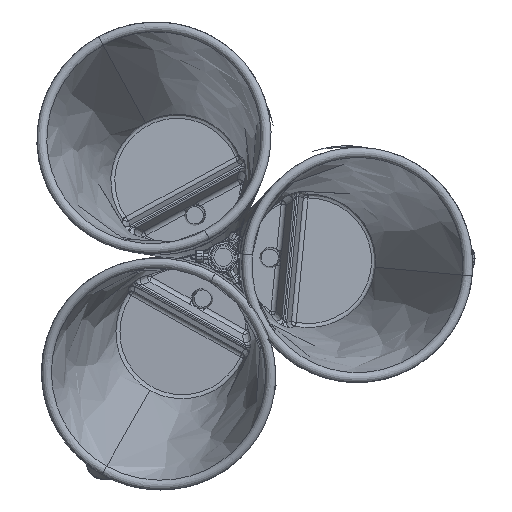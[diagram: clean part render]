
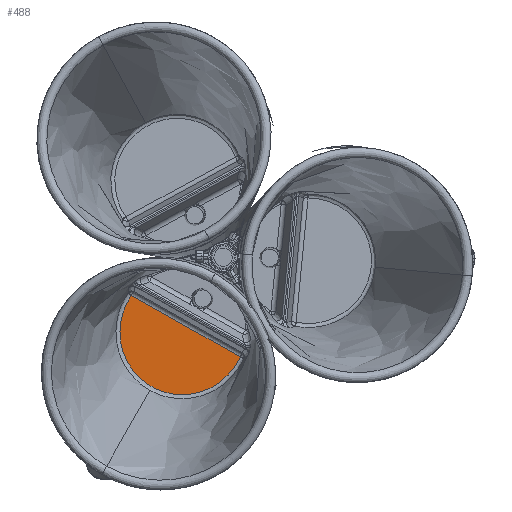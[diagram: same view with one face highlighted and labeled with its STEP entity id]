
A CAD part, top view. The second image highlights one B-rep face of the part: STEP entity #488.
In plain terms, the highlighted planar face has unit normal (-0.019, -0.034, 0.999).
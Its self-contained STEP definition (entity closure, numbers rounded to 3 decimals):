
#488=ADVANCED_FACE('',(#904),#5843,.T.);
#904=FACE_OUTER_BOUND('',#1318,.T.);
#1318=EDGE_LOOP('',(#2718,#2719,#2720,#2721));
#2718=ORIENTED_EDGE('',*,*,#3960,.T.);
#2719=ORIENTED_EDGE('',*,*,#3963,.T.);
#2720=ORIENTED_EDGE('',*,*,#3962,.T.);
#2721=ORIENTED_EDGE('',*,*,#3961,.T.);
#3960=EDGE_CURVE('',#5612,#5613,#4571,.T.);
#3961=EDGE_CURVE('',#5614,#5612,#5082,.T.);
#3962=EDGE_CURVE('',#5615,#5614,#5083,.T.);
#3963=EDGE_CURVE('',#5613,#5615,#5084,.T.);
#4571=(
BOUNDED_CURVE()
B_SPLINE_CURVE(2,(#21054,#21055,#21056,#21057,#21058,#21059,#21060,#21061,
#21062),.UNSPECIFIED.,.F.,.F.)
B_SPLINE_CURVE_WITH_KNOTS((3,2,2,2,3),(143.802,146.936,
195.915,244.894,248.029),.UNSPECIFIED.)
CURVE()
GEOMETRIC_REPRESENTATION_ITEM()
RATIONAL_B_SPLINE_CURVE((1.,0.999,1.,0.707,1.,0.707,
1.,0.999,1.))
REPRESENTATION_ITEM('')
);
#5082=B_SPLINE_CURVE_WITH_KNOTS('',3,(#21063,#21064,#21065,#21066),
 .UNSPECIFIED.,.F.,.F.,(4,4),(0.,0.),.UNSPECIFIED.);
#5083=B_SPLINE_CURVE_WITH_KNOTS('',1,(#21067,#21068),.UNSPECIFIED.,.F.,
 .F.,(2,2),(0.,61.664),.UNSPECIFIED.);
#5084=B_SPLINE_CURVE_WITH_KNOTS('',3,(#21069,#21070,#21071,#21072),
 .UNSPECIFIED.,.F.,.F.,(4,4),(0.,0.),.UNSPECIFIED.);
#5612=VERTEX_POINT('',#20975);
#5613=VERTEX_POINT('',#20976);
#5614=VERTEX_POINT('',#20977);
#5615=VERTEX_POINT('',#20978);
#5843=PLANE('',#6324);
#6324=AXIS2_PLACEMENT_3D('',#17197,#6491,$);
#6491=DIRECTION('',(-0.019,-0.034,0.999));
#17197=CARTESIAN_POINT('',(-4.523,-84.789,53.993));
#20975=CARTESIAN_POINT('',(-45.276,-18.573,55.47));
#20976=CARTESIAN_POINT('',(8.464,-48.853,55.47));
#20977=CARTESIAN_POINT('',(-45.237,-18.524,55.472));
#20978=CARTESIAN_POINT('',(8.486,-48.795,55.472));
#21054=CARTESIAN_POINT('',(-45.276,-18.573,55.47));
#21055=CARTESIAN_POINT('',(-46.097,-19.764,55.413));
#21056=CARTESIAN_POINT('',(-46.807,-21.024,55.357));
#21057=CARTESIAN_POINT('',(-62.204,-48.35,54.128));
#21058=CARTESIAN_POINT('',(-35.22,-63.554,54.128));
#21059=CARTESIAN_POINT('',(-8.236,-78.759,54.128));
#21060=CARTESIAN_POINT('',(7.161,-51.433,55.357));
#21061=CARTESIAN_POINT('',(7.871,-50.173,55.413));
#21062=CARTESIAN_POINT('',(8.464,-48.853,55.47));
#21063=CARTESIAN_POINT('',(-45.237,-18.524,55.472));
#21064=CARTESIAN_POINT('',(-45.251,-18.54,55.471));
#21065=CARTESIAN_POINT('',(-45.264,-18.556,55.47));
#21066=CARTESIAN_POINT('',(-45.276,-18.573,55.47));
#21067=CARTESIAN_POINT('',(8.486,-48.795,55.472));
#21068=CARTESIAN_POINT('',(-45.237,-18.524,55.472));
#21069=CARTESIAN_POINT('',(8.464,-48.853,55.47));
#21070=CARTESIAN_POINT('',(8.472,-48.834,55.47));
#21071=CARTESIAN_POINT('',(8.48,-48.815,55.471));
#21072=CARTESIAN_POINT('',(8.486,-48.795,55.472));
